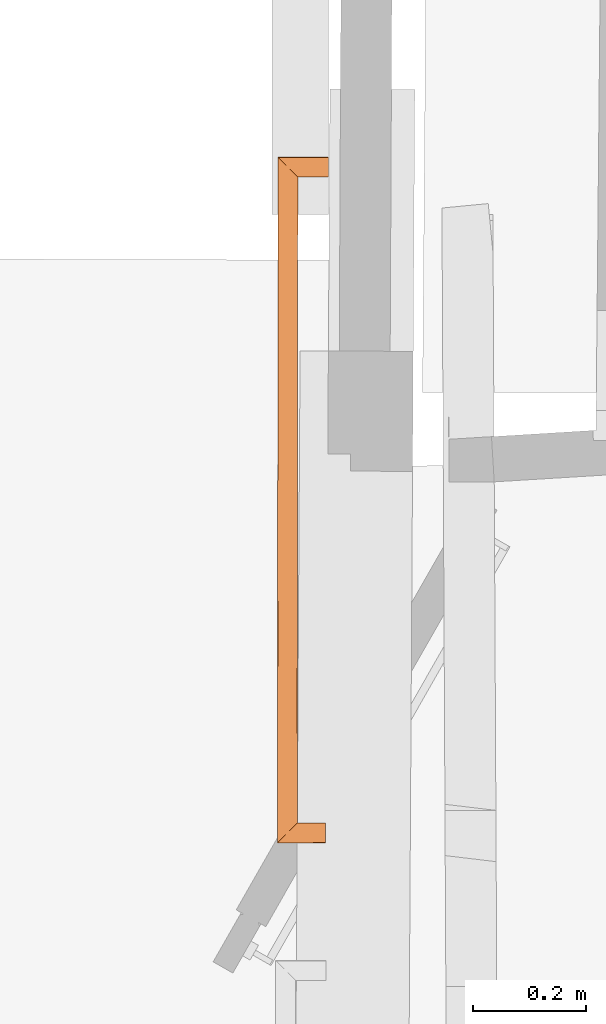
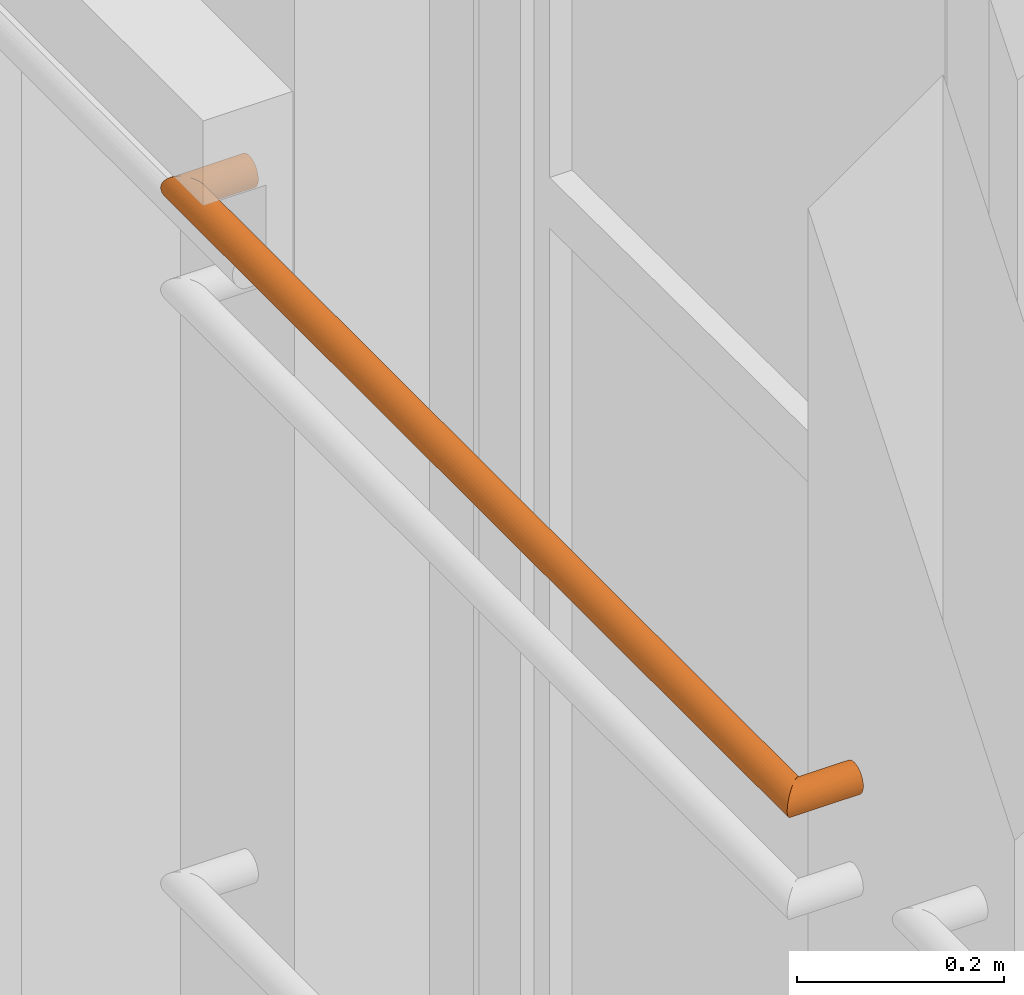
# One storey, part 94 of 97: 1 proxy.
"""IFC2X3 building model written with IfcOpenShell, lengths in centimetres."""

from ifc_helpers import new_model, entity, si_unit, converted_unit, direction, origin, origin_with_axes, place, context, subcontext, project, spatial, faceted_brep, material, type_object, element, save


model = new_model("IFC2X3")

# Units and contexts
model_context = context("Model", 3, precision=0.0001, world=origin(), true_north=direction((0.225632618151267, 0.974212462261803, 0.0)))
body_context = subcontext(model_context, "Body", "Model", "MODEL_VIEW")
ifc_project = project(units=[si_unit("LENGTHUNIT", "METRE", prefix="CENTI"), si_unit("AREAUNIT", "SQUARE_METRE", prefix="CENTI"), si_unit("VOLUMEUNIT", "CUBIC_METRE", prefix="CENTI"), converted_unit("PLANEANGLEUNIT", "DEGREE", entity("IfcRatioMeasure", 0.0174532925), si_unit("PLANEANGLEUNIT", "RADIAN"), dimensions=[0, 0, 0, 0, 0, 0, 0])], contexts=[model_context])

# Site, building, storey
site_placement = place(None, origin_with_axes())
site = spatial("IfcSite", under=ifc_project, at=site_placement, Name="Default Site", CompositionType="ELEMENT")
building_placement = place(site_placement, origin_with_axes())
building = spatial("IfcBuilding", under=site, at=building_placement, Name="Default Building", CompositionType="ELEMENT")
storey_placement = place(building_placement, origin_with_axes())
storey = spatial("IfcBuildingStorey", under=building, at=storey_placement, Name="Rez-de-chaussée", CompositionType="ELEMENT", Elevation=0.0)

# Proxy
ifc_material = material(Name="Aluminium mat")
building_element_proxy_type = type_object("IfcBuildingElementProxyType", Name="Profil [C] Ø35mm", PredefinedType="NOTDEFINED", material=ifc_material)
proxy_placement = place(storey_placement, origin_with_axes())
element("IfcBuildingElementProxy", 1, at=proxy_placement, inside=storey, type_object=building_element_proxy_type, material=ifc_material, Name="Extrusion (solide) 1702447", context=body_context, shape_type="Brep", body=[
    faceted_brep([(-1369.51885223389, -54.8991858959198, 450.0), (-1369.49224472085, -54.8726205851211, 449.696111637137), (-1361.01875305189, -54.8794628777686, 449.696111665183), (-1361.01875304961, -54.9060496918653, 450.000000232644), (-1369.49224472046, -54.8726201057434, 449.696111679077), (-1369.41318512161, -54.7937358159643, 449.401473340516), (-1361.01865768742, -54.80051424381, 449.401472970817), (-1361.01875305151, -54.8794624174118, 449.696111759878), (-1369.41318511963, -54.7937333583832, 449.401473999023), (-1369.28415298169, -54.664918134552, 449.125005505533), (-1361.01856231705, -54.6715917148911, 449.125003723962), (-1361.01865768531, -54.8005116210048, 449.401473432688), (-1369.28415298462, -54.6649217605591, 449.125003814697), (-1369.10905838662, -54.4901034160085, 448.8751355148), (-1361.01846695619, -54.4966363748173, 448.875135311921), (-1361.01856231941, -54.6715946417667, 449.125001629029), (-1369.10905838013, -54.4900953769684, 448.875141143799), (-1368.89324187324, -54.2745596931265, 448.65943126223), (-1361.01827620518, -54.280919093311, 448.659431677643), (-1361.01846694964, -54.4966282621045, 448.87514092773), (-1368.89324188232, -54.274570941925, 448.659420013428), (-1368.64309311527, -54.0249006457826, 448.484457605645), (-1361.01808548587, -54.0310578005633, 448.484457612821), (-1361.01827621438, -54.2809304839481, 448.659420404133), (-1368.64309310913, -54.0248930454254, 448.484468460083), (-1368.36643218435, -53.7486424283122, 448.355546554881), (-1361.01779937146, -53.7545785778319, 448.355547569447), (-1361.01808547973, -54.0310502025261, 448.484468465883), (-1368.36643218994, -53.7486493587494, 448.355531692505), (-1368.07155608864, -53.4542348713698, 448.276579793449), (-1361.01760863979, -53.4599329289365, 448.276580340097), (-1361.0177993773, -53.7545858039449, 448.355532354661), (-1368.07155609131, -53.4542381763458, 448.276567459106), (-1367.76742935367, -53.1506024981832, 448.249981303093), (-1361.01732254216, -53.1560503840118, 448.249981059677), (-1361.01760864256, -53.4599363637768, 448.276567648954), (-1367.76742935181, -53.150600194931, 448.250007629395), (-1367.46330261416, -52.8469645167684, 448.276593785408), (-1361.01713180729, -52.8521680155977, 448.27659393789), (-1361.0173225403, -53.1560480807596, 448.250007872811), (-1367.4633026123, -52.8469622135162, 448.276567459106), (-1367.16842651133, -52.5525421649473, 448.355520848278), (-1361.01684570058, -52.5575129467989, 448.355519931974), (-1361.01713180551, -52.8521658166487, 448.276567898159), (-1367.16842651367, -52.5525450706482, 448.355531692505), (-1366.89176558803, -52.2762993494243, 448.484451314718), (-1361.01665496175, -52.2810438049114, 448.484451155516), (-1361.0168457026, -52.5575154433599, 448.355530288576), (-1366.89176559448, -52.2763073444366, 448.484468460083), (-1366.64161682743, -52.0266370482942, 448.659430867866), (-1361.01646423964, -52.0311790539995, 448.659431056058), (-1361.01665496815, -52.2810517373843, 448.484468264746), (-1366.64161682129, -52.026629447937, 448.659420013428), (-1366.4258003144, -51.8110937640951, 448.875129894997), (-1361.0162734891, -51.8154623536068, 448.875129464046), (-1361.01646423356, -52.0311715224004, 448.659420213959), (-1366.42580032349, -51.8111050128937, 448.875141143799), (-1366.25070572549, -51.6362866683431, 449.125009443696), (-1361.01617813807, -51.6405132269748, 449.12500985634), (-1361.01627349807, -51.8154734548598, 448.875140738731), (-1366.25070571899, -51.636278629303, 449.125003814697), (-1366.12167358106, -51.5074634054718, 449.401472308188), (-1361.01598739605, -51.5115854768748, 449.401473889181), (-1361.01617813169, -51.6405053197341, 449.12500415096), (-1366.12167358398, -51.5074670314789, 449.401473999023), (-1366.04261398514, -51.4285827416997, 449.696112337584), (-1361.01598739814, -51.4326417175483, 449.696112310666), (-1361.01598739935, -51.511589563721, 449.401475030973), (-1366.04261398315, -51.4285802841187, 449.696111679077), (-1366.01600647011, -51.40201497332, 450.00000004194), (-1361.01598739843, -51.4060524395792, 450.000000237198), (-1361.01598739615, -51.4326392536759, 449.696111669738), (-1366.01600646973, -51.4020144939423, 450.0), (-1366.04261398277, -51.4285798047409, 450.303888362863), (-1361.01598739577, -51.4326387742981, 450.303888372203), (-1361.01598739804, -51.4060519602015, 449.999999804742), (-1366.04261398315, -51.4285802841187, 450.303888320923), (-1366.121673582, -51.5074645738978, 450.598526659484), (-1361.01598739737, -51.5115871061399, 450.598525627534), (-1361.01598739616, -51.4326392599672, 450.303888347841), (-1366.12167358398, -51.5074670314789, 450.598526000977), (-1366.25070572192, -51.6362822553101, 450.874994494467), (-1361.01617813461, -51.6405089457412, 450.874994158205), (-1361.01598739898, -51.5115891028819, 450.598524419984), (-1366.25070571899, -51.636278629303, 450.874996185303), (-1366.42580031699, -51.8110969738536, 451.1248644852), (-1361.01627349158, -51.8154654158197, 451.124864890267), (-1361.01617813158, -51.6405051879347, 450.874995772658), (-1366.42580032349, -51.8111050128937, 451.124858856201), (-1366.64161683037, -52.0266406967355, 451.34056873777), (-1361.01646424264, -52.0311827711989, 451.340568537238), (-1361.01627349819, -51.8154736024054, 451.124859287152), (-1366.64161682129, -52.026629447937, 451.340579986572), (-1366.89176558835, -52.2762997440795, 451.515542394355), (-1361.01665496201, -52.2810441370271, 451.515542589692), (-1361.0164642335, -52.0311714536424, 451.34057979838), (-1366.89176559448, -52.2763073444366, 451.515531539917), (-1367.16842652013, -52.5525530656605, 451.64445116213), (-1361.01684570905, -52.5575234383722, 451.644452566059), (-1361.0166549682, -52.2810517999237, 451.515531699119), (-1367.16842651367, -52.5525450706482, 451.644468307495), (-1367.46330261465, -52.8469651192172, 451.723421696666), (-1361.01713180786, -52.8521687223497, 451.723421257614), (-1361.01684570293, -52.5575158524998, 451.644469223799), (-1367.4633026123, -52.8469622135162, 451.723432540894), (-1367.76742934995, -53.1505978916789, 451.750018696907), (-1361.01732253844, -53.1560457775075, 451.750018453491), (-1361.01713180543, -52.8521657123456, 451.723432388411), (-1367.76742935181, -53.150600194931, 451.749992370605), (-1368.07155608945, -53.4542358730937, 451.723406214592), (-1361.0176086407, -53.4599340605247, 451.723406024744), (-1361.0173225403, -53.1560480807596, 451.749992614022), (-1368.07155609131, -53.4542381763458, 451.723432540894), (-1368.36643219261, -53.7486526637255, 451.644480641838), (-1361.01779937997, -53.754589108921, 451.644479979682), (-1361.01760864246, -53.4599362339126, 451.723431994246), (-1368.36643218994, -53.7486493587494, 451.644468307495), (-1368.64309311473, -54.0248999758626, 451.515546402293), (-1361.01808548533, -54.0310571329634, 451.515546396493), (-1361.01779937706, -53.7545855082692, 451.644467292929), (-1368.64309310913, -54.0248930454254, 451.515531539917), (-1368.89324187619, -54.2745633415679, 451.340569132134), (-1361.01827620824, -54.2809228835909, 451.340568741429), (-1361.01808547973, -54.0310502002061, 451.515531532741), (-1368.89324188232, -54.274570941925, 451.340579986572), (-1369.10905838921, -54.4901066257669, 451.124870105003), (-1361.01846695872, -54.4966395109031, 451.124870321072), (-1361.01827621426, -54.2809303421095, 451.340579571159), (-1369.10905838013, -54.4900953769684, 451.124858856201), (-1369.28415297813, -54.664913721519, 450.874990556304), (-1361.01856231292, -54.6715866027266, 450.874992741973), (-1361.0184669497, -54.4966283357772, 451.12485905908), (-1369.28415298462, -54.6649217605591, 450.874996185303), (-1369.41318512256, -54.7937369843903, 450.598527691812), (-1361.01865768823, -54.8005152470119, 450.598528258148), (-1361.01856231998, -54.6715953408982, 450.874997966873), (-1369.41318511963, -54.7937333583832, 450.598526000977), (-1369.49224471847, -54.8726176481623, 450.303887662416), (-1361.01875304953, -54.8794599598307, 450.303887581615), (-1361.01865768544, -54.8005117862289, 450.598526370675), (-1369.49224472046, -54.8726201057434, 450.303888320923), (-1369.5188522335, -54.8991854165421, 449.99999995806), (-1361.01875304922, -54.9060492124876, 449.999999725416), (-1361.0187530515, -54.8794623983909, 450.303888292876), (-1369.42100524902, 66.2953078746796, 450.0), (-1369.39443960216, 66.2687242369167, 449.696108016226), (-1369.49226065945, -54.8726200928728, 449.696110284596), (-1369.51886889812, -54.8991858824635, 449.999998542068), (-1369.3943977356, 66.2687242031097, 449.696111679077), (-1369.31551456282, 66.1897718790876, 449.401477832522), (-1369.41320547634, -54.7937333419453, 449.401468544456), (-1369.49222034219, -54.8726201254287, 449.696118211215), (-1369.31552886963, 66.1897718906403, 449.401473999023), (-1369.18670824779, 66.0608530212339, 449.124994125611), (-1369.28419000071, -54.6649217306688, 449.124986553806), (-1369.41321563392, -54.7937333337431, 449.401459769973), (-1369.18668746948, 66.0608530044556, 449.125003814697), (-1369.01187493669, 65.8858895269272, 448.875143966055), (-1369.1090700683, -54.4900953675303, 448.875132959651), (-1369.28416625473, -54.6649217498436, 449.124994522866), (-1369.01187896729, 65.8858895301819, 448.875141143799), (-1368.79634025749, 65.6701862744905, 448.659428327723), (-1368.89321422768, -54.274570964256, 448.659447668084), (-1369.10907009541, -54.4900953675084, 448.87512942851), (-1368.79634857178, 65.6701862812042, 448.659420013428), (-1368.54668220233, 65.4203116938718, 448.48446051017), (-1368.64311011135, -54.0248930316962, 448.48444417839), (-1368.89322915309, -54.2745709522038, 448.659438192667), (-1368.54667663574, 65.4203116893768, 448.484468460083), (-1368.27039661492, 65.1438474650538, 448.355532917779), (-1368.36642624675, -53.7486493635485, 448.355544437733), (-1368.64309931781, -54.0248930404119, 448.484455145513), (-1368.27039718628, 65.1438474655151, 448.355531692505), (-1367.97599380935, 64.8491919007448, 448.276582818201), (-1368.0715500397, -53.4542381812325, 448.276590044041), (-1368.36643017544, -53.7486493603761, 448.355539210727), (-1367.9759979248, 64.849191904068, 448.276567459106), (-1367.67235041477, 64.5453095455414, 448.249980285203), (-1367.76743142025, -53.1506001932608, 448.249983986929), (-1368.07155587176, -53.4542381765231, 448.276569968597), (-1367.67234802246, 64.5453095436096, 448.250007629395), (-1367.36879515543, 64.2414271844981, 448.27658652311), (-1367.46330457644, -52.8469622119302, 448.276589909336), (-1367.76742902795, -53.1506001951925, 448.250003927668), (-1367.36879348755, 64.2414271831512, 448.276567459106), (-1367.07430113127, 63.9467775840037, 448.355540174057), (-1367.16842508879, -52.5525450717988, 448.355526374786), (-1367.46330522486, -52.8469622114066, 448.276577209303), (-1367.07429885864, 63.9467775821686, 448.355531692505), (-1366.79809717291, 63.6703073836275, 448.48443070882), (-1366.8917435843, -52.2763073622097, 448.484421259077), (-1367.16841665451, -52.5525450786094, 448.355510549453), (-1366.79811477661, 63.6703073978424, 448.484468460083), (-1366.54844840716, 63.42043281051, 448.659427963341), (-1366.64163843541, -52.0266294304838, 448.659450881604), (-1366.89175747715, -52.2763073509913, 448.484456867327), (-1366.54844284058, 63.420432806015, 448.659420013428), (-1366.33290413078, 63.2047295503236, 448.875132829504), (-1366.42578534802, -51.8111050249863, 448.875126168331), (-1366.64164121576, -52.0266294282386, 448.659444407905), (-1366.33291244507, 63.2047295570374, 448.875141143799), (-1366.15809991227, 63.029766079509, 449.125000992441), (-1366.2506951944, -51.6362786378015, 449.124996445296), (-1366.42579138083, -51.8111050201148, 448.875134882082), (-1366.15810394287, 63.0297660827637, 449.125003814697), (-1366.02928332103, 62.9008472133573, 449.401483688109), (-1366.12167213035, -51.5074670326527, 449.401473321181), (-1366.25069776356, -51.6362786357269, 449.125000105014), (-1366.02926254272, 62.900847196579, 449.401473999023), (-1365.95037936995, 62.8218948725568, 449.696107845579), (-1366.04263346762, -51.4285802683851, 449.696116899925), (-1366.12164833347, -51.5074670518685, 449.401467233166), (-1365.95039367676, 62.8218948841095, 449.696111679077), (-1365.92382802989, 62.7953112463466, 450.000003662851), (-1366.01604168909, -51.4020144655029, 450.000003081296), (-1366.04264992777, -51.4285802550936, 449.696114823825), (-1365.92378616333, 62.7953112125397, 450.0), (-1365.9503518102, 62.8218948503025, 450.303891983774), (-1366.04260806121, -51.4285802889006, 450.303888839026), (-1366.01599982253, -51.4020144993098, 450.000000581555), (-1365.95039367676, 62.8218948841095, 450.303888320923), (-1366.02927684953, 62.9008472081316, 450.598522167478), (-1366.12166264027, -51.5074670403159, 450.598528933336), (-1366.04264777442, -51.4285802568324, 450.303879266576), (-1366.02926254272, 62.900847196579, 450.598526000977), (-1366.15808316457, 63.0297660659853, 450.875005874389), (-1366.25067698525, -51.6362786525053, 450.875009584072), (-1366.12165135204, -51.507467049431, 450.598536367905), (-1366.15810394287, 63.0297660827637, 450.874996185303), (-1366.33291647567, 63.204729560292, 451.124856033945), (-1366.42579541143, -51.8111050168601, 451.124862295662), (-1366.250699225, -51.6362786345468, 450.875000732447), (-1366.33291244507, 63.2047295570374, 451.124858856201), (-1366.54845115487, 63.4204328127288, 451.340571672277), (-1366.64164953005, -52.0266294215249, 451.3405472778), (-1366.42579366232, -51.8111050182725, 451.124865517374), (-1366.54844284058, 63.420432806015, 451.340579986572), (-1366.79810921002, 63.6703073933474, 451.51553948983), (-1366.89175191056, -52.2763073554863, 451.515551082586), (-1366.64163286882, -52.0266294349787, 451.340557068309), (-1366.79811477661, 63.6703073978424, 451.515531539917), (-1367.07431646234, 63.9467775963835, 451.644430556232), (-1367.16843425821, -52.5525450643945, 451.644451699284), (-1366.891761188, -52.2763073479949, 451.51554098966), (-1367.07429885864, 63.9467775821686, 451.644468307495), (-1367.36879121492, 64.2414271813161, 451.723441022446), (-1367.46330295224, -52.8469622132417, 451.723431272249), (-1367.16842281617, -52.5525450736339, 451.644482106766), (-1367.36879348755, 64.2414271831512, 451.723432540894), (-1367.67234635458, 64.5453095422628, 451.750011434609), (-1367.76742736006, -53.1506001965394, 451.750015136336), (-1367.46330290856, -52.846962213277, 451.723429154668), (-1367.67234802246, 64.5453095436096, 451.749992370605), (-1367.9759955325, 64.8491919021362, 451.723405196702), (-1368.07155347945, -53.4542381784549, 451.723402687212), (-1367.76742902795, -53.1506001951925, 451.749988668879), (-1367.9759979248, 64.849191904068, 451.723432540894), (-1368.27040130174, 65.1438474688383, 451.64448366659), (-1368.3664342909, -53.7486493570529, 451.644476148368), (-1368.07155415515, -53.4542381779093, 451.723425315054), (-1368.27039718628, 65.1438474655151, 451.644468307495), (-1368.5466772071, 65.4203116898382, 451.515532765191), (-1368.64309988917, -54.0248930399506, 451.515546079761), (-1368.3664268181, -53.7486493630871, 451.644456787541), (-1368.54667663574, 65.4203116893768, 451.515531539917), (-1368.79634300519, 65.6701862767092, 451.340572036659), (-1368.8932235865, -54.2745709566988, 451.34055385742), (-1368.64310454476, -54.0248930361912, 451.515547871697), (-1368.79634857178, 65.6701862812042, 451.340579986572), (-1369.01188728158, 65.8858895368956, 451.124867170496), (-1369.1090784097, -54.4900953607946, 451.124878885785), (-1368.89322254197, -54.2745709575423, 451.340560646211), (-1369.01187896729, 65.8858895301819, 451.124858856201), (-1369.18669150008, 66.0608530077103, 450.874999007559), (-1369.28417028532, -54.6649217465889, 450.875008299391), (-1369.1090740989, -54.4900953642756, 451.124869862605), (-1369.18668746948, 66.0608530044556, 450.874996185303), (-1369.31550809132, 66.1897718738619, 450.59851631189), (-1369.41319485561, -54.7937333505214, 450.59853054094), (-1369.2841692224, -54.6649217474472, 450.875003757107), (-1369.31552886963, 66.1897718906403, 450.598526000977), (-1369.3944120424, 66.2687242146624, 450.303892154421), (-1369.492234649, -54.872620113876, 450.303885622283), (-1369.41321978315, -54.7937333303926, 450.598535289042), (-1369.3943977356, 66.2687242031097, 450.303888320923), (-1369.42096338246, 66.2953078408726, 449.999996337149), (-1369.51882703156, -54.8991859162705, 449.999997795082), (-1369.49221879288, -54.8726201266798, 450.303886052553), (-1360.53104400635, 66.2953078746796, 450.0), (-1360.53104400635, 66.2687211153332, 449.696111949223), (-1369.3943977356, 66.2687211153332, 449.696111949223), (-1360.53104400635, 66.2687242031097, 449.696111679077), (-1360.53104400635, 66.1897759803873, 449.401472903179), (-1369.31552886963, 66.1897759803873, 449.401472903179), (-1360.53104400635, 66.1897718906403, 449.401473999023), (-1360.53104400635, 66.060851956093, 449.125004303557), (-1369.18668746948, 66.060851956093, 449.125004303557), (-1360.53104400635, 66.0608530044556, 449.125003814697), (-1360.53104400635, 65.8858947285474, 448.875137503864), (-1369.01187896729, 65.8858947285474, 448.875137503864), (-1360.53104400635, 65.8858895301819, 448.875141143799), (-1360.53104400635, 65.6701773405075, 448.659428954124), (-1368.79634857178, 65.6701773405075, 448.659428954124), (-1360.53104400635, 65.6701862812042, 448.659420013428), (-1360.53104400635, 65.4203175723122, 448.484460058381), (-1368.54667663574, 65.4203175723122, 448.484460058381), (-1360.53104400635, 65.4203116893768, 448.484468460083), (-1360.53104400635, 65.1438400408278, 448.355547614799), (-1368.27039718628, 65.1438400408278, 448.355547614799), (-1360.53104400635, 65.1438474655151, 448.355531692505), (-1360.53104400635, 64.8491890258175, 448.276578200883), (-1367.9759979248, 64.8491890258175, 448.276578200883), (-1360.53104400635, 64.849191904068, 448.276567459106), (-1360.53104400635, 64.5453118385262, 448.249981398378), (-1367.67234802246, 64.5453118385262, 448.249981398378), (-1360.53104400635, 64.5453095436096, 448.250007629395), (-1360.53104400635, 64.2414294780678, 448.276593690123), (-1367.36879348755, 64.2414294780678, 448.276593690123), (-1360.53104400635, 64.2414271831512, 448.276567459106), (-1360.53104400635, 63.9467743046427, 448.355519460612), (-1367.07429885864, 63.9467743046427, 448.355519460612), (-1360.53104400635, 63.9467775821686, 448.355531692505), (-1360.53104400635, 63.6703010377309, 448.48445482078), (-1366.79811477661, 63.6703010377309, 448.48445482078), (-1360.53104400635, 63.6703073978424, 448.484468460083), (-1360.53104400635, 63.4204386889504, 448.65942841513), (-1366.54844284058, 63.4204386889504, 448.65942841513), (-1360.53104400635, 63.420432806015, 448.659420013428), (-1360.53104400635, 63.2047206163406, 448.875132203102), (-1366.33291244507, 63.2047206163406, 448.875132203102), (-1360.53104400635, 63.2047295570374, 448.875141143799), (-1360.53104400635, 63.0297712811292, 449.125007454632), (-1366.15810394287, 63.0297712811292, 449.125007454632), (-1360.53104400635, 63.0297660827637, 449.125003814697), (-1360.53104400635, 62.9008461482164, 449.401473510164), (-1366.02926254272, 62.9008461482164, 449.401473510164), (-1360.53104400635, 62.900847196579, 449.401473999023), (-1360.53104400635, 62.8218989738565, 449.696112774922), (-1365.95039367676, 62.8218989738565, 449.696112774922), (-1360.53104400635, 62.8218948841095, 449.696111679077), (-1360.53104400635, 62.7953081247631, 449.999999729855), (-1365.92378616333, 62.7953081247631, 449.999999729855), (-1360.53104400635, 62.7953112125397, 450.0), (-1360.53104400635, 62.8218979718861, 450.303888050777), (-1365.95039367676, 62.8218979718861, 450.303888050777), (-1360.53104400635, 62.8218948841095, 450.303888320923), (-1360.53104400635, 62.900843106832, 450.598527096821), (-1366.02926254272, 62.900843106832, 450.598527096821), (-1360.53104400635, 62.900847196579, 450.598526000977), (-1360.53104400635, 63.0297671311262, 450.874995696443), (-1366.15810394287, 63.0297671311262, 450.874995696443), (-1360.53104400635, 63.0297660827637, 450.874996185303), (-1360.53104400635, 63.2047243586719, 451.124862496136), (-1366.33291244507, 63.2047243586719, 451.124862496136), (-1360.53104400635, 63.2047295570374, 451.124858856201), (-1360.53104400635, 63.4204417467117, 451.340571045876), (-1366.54844284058, 63.4204417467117, 451.340571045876), (-1360.53104400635, 63.420432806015, 451.340579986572), (-1360.53104400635, 63.670301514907, 451.515539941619), (-1366.79811477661, 63.670301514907, 451.515539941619), (-1360.53104400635, 63.6703073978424, 451.515531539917), (-1360.53104400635, 63.9467839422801, 451.644454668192), (-1367.07429885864, 63.9467839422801, 451.644454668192), (-1360.53104400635, 63.9467775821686, 451.644468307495), (-1360.53104400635, 64.2414304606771, 451.723420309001), (-1367.36879348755, 64.2414304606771, 451.723420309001), (-1360.53104400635, 64.2414271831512, 451.723432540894), (-1360.53104400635, 64.545307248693, 451.750018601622), (-1367.67234802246, 64.545307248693, 451.750018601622), (-1360.53104400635, 64.5453095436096, 451.749992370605), (-1360.53104400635, 64.8491896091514, 451.723406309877), (-1367.9759979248, 64.8491896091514, 451.723406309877), (-1360.53104400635, 64.849191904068, 451.723432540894), (-1360.53104400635, 65.1438503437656, 451.644479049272), (-1368.27039718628, 65.1438503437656, 451.644479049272), (-1360.53104400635, 65.1438474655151, 451.644468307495), (-1360.53104400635, 65.4203191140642, 451.515547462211), (-1368.54667663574, 65.4203191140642, 451.515547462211), (-1360.53104400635, 65.4203116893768, 451.515531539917), (-1360.53104400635, 65.6701803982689, 451.34057158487), (-1368.79634857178, 65.6701803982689, 451.34057158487), (-1360.53104400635, 65.6701862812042, 451.340579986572), (-1360.53104400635, 65.8858984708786, 451.124867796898), (-1369.01187896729, 65.8858984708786, 451.124867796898), (-1360.53104400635, 65.8858895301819, 451.124858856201), (-1360.53104400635, 66.0608478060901, 450.874992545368), (-1369.18668746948, 66.0608478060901, 450.874992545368), (-1360.53104400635, 66.0608530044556, 450.874996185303), (-1360.53104400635, 66.1897729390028, 450.598526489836), (-1369.31552886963, 66.1897729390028, 450.598526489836), (-1360.53104400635, 66.1897718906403, 450.598526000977), (-1360.53104400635, 66.2687201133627, 450.303887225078), (-1369.3943977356, 66.2687201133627, 450.303887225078), (-1360.53104400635, 66.2687242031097, 450.303888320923), (-1360.53104400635, 66.2953109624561, 450.000000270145), (-1369.42100524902, 66.2953109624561, 450.000000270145), (-1361.01875305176, -54.9060523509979, 450.0), (-1361.01873158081, -54.8794627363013, 449.696111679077), (-1361.01866782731, -54.8005103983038, 449.401473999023), (-1361.01856372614, -54.6715915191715, 449.125003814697), (-1361.01842244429, -54.4966280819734, 448.875141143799), (-1361.0182482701, -54.2809307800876, 448.659420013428), (-1361.01804649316, -54.0310502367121, 448.484468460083), (-1361.01782325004, -53.7545859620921, 448.355531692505), (-1361.0175853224, -53.4599363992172, 448.276567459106), (-1361.01733993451, -53.1560480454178, 448.250007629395), (-1361.01709455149, -52.8521657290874, 448.276567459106), (-1361.01685662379, -52.5575160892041, 448.355531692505), (-1361.01663338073, -52.2810518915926, 448.484468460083), (-1361.01643160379, -52.0311713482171, 448.659420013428), (-1361.01625742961, -51.8154740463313, 448.875141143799), (-1361.01611614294, -51.6405046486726, 449.125003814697), (-1361.01601204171, -51.5115856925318, 449.401473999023), (-1361.01594829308, -51.4326393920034, 449.696111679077), (-1361.01592682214, -51.4060497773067, 450.0), (-1361.01594829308, -51.4326393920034, 450.303888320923), (-1361.01601204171, -51.5115856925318, 450.598526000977), (-1361.01611614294, -51.6405046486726, 450.874996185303), (-1361.01625742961, -51.8154740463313, 451.124858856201), (-1361.0164316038, -52.0311713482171, 451.340579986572), (-1361.01663338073, -52.2810518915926, 451.515531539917), (-1361.0168566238, -52.5575160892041, 451.644468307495), (-1361.01709455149, -52.8521657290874, 451.723432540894), (-1361.01733993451, -53.1560480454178, 451.749992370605), (-1361.01758532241, -53.4599363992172, 451.723432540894), (-1361.01782325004, -53.7545859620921, 451.644468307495), (-1361.01804649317, -54.0310502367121, 451.515531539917), (-1361.0182482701, -54.2809307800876, 451.340579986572), (-1361.01842244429, -54.4966280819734, 451.124858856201), (-1361.01856372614, -54.6715915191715, 450.874996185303), (-1361.01866782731, -54.8005103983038, 450.598526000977), (-1361.01873158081, -54.8794627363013, 450.303888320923)], [[[0, 1, 2, 3]], [[4, 5, 6, 7]], [[8, 9, 10, 11]], [[12, 13, 14, 15]], [[16, 17, 18, 19]], [[20, 21, 22, 23]], [[24, 25, 26, 27]], [[28, 29, 30, 31]], [[32, 33, 34, 35]], [[36, 37, 38, 39]], [[40, 41, 42, 43]], [[44, 45, 46, 47]], [[48, 49, 50, 51]], [[52, 53, 54, 55]], [[56, 57, 58, 59]], [[60, 61, 62, 63]], [[64, 65, 66, 67]], [[68, 69, 70, 71]], [[72, 73, 74, 75]], [[76, 77, 78, 79]], [[80, 81, 82, 83]], [[84, 85, 86, 87]], [[88, 89, 90, 91]], [[92, 93, 94, 95]], [[96, 97, 98, 99]], [[100, 101, 102, 103]], [[104, 105, 106, 107]], [[108, 109, 110, 111]], [[112, 113, 114, 115]], [[116, 117, 118, 119]], [[120, 121, 122, 123]], [[124, 125, 126, 127]], [[128, 129, 130, 131]], [[132, 133, 134, 135]], [[136, 137, 138, 139]], [[140, 141, 142, 143]], [[144, 145, 146, 147]], [[148, 149, 150, 151]], [[152, 153, 154, 155]], [[156, 157, 158, 159]], [[160, 161, 162, 163]], [[164, 165, 166, 167]], [[168, 169, 170, 171]], [[172, 173, 174, 175]], [[176, 177, 178, 179]], [[180, 181, 182, 183]], [[184, 185, 186, 187]], [[188, 189, 190, 191]], [[192, 193, 194, 195]], [[196, 197, 198, 199]], [[200, 201, 202, 203]], [[204, 205, 206, 207]], [[208, 209, 210, 211]], [[212, 213, 214, 215]], [[216, 217, 218, 219]], [[220, 221, 222, 223]], [[224, 225, 226, 227]], [[228, 229, 230, 231]], [[232, 233, 234, 235]], [[236, 237, 238, 239]], [[240, 241, 242, 243]], [[244, 245, 246, 247]], [[248, 249, 250, 251]], [[252, 253, 254, 255]], [[256, 257, 258, 259]], [[260, 261, 262, 263]], [[264, 265, 266, 267]], [[268, 269, 270, 271]], [[272, 273, 274, 275]], [[276, 277, 278, 279]], [[280, 281, 282, 283]], [[284, 285, 286, 287]], [[288, 289, 290, 144]], [[291, 292, 293, 148]], [[294, 295, 296, 152]], [[297, 298, 299, 156]], [[300, 301, 302, 160]], [[303, 304, 305, 164]], [[306, 307, 308, 168]], [[309, 310, 311, 172]], [[312, 313, 314, 176]], [[315, 316, 317, 180]], [[318, 319, 320, 184]], [[321, 322, 323, 188]], [[324, 325, 326, 192]], [[327, 328, 329, 196]], [[330, 331, 332, 200]], [[333, 334, 335, 204]], [[336, 337, 338, 208]], [[339, 340, 341, 212]], [[342, 343, 344, 216]], [[345, 346, 347, 220]], [[348, 349, 350, 224]], [[351, 352, 353, 228]], [[354, 355, 356, 232]], [[357, 358, 359, 236]], [[360, 361, 362, 240]], [[363, 364, 365, 244]], [[366, 367, 368, 248]], [[369, 370, 371, 252]], [[372, 373, 374, 256]], [[375, 376, 377, 260]], [[378, 379, 380, 264]], [[381, 382, 383, 268]], [[384, 385, 386, 272]], [[387, 388, 389, 276]], [[390, 391, 392, 280]], [[393, 394, 395, 284]], [[396, 397, 398, 399, 400, 401, 402, 403, 404, 405, 406, 407, 408, 409, 410, 411, 412, 413, 414, 415, 416, 417, 418, 419, 420, 421, 422, 423, 424, 425, 426, 427, 428, 429, 430, 431]], [[393, 390, 387, 384, 381, 378, 375, 372, 369, 366, 363, 360, 357, 354, 351, 348, 345, 342, 339, 336, 333, 330, 327, 324, 321, 318, 315, 312, 309, 306, 303, 300, 297, 294, 291, 288]]]),
])

save(model, "model.ifc")
